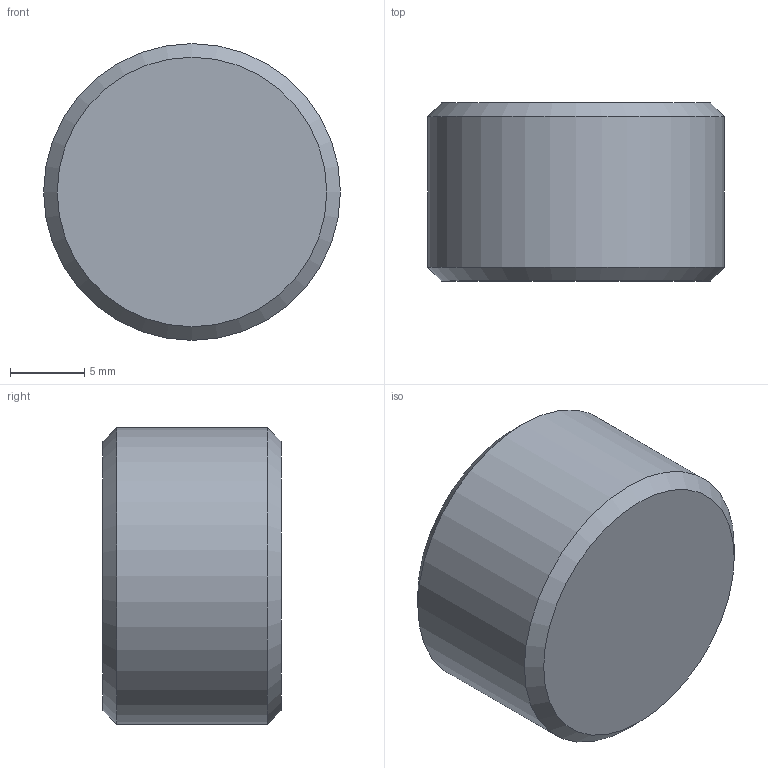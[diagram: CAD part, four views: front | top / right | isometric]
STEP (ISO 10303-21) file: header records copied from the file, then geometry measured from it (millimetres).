
FILE_DESCRIPTION( ( 'STEP AP203' ), '1' );
FILE_NAME( 'C:/Temp/Ganter_Step_05_03_2020/data/3_2/gn252_5/gn_252_5_prb/Stainless Steel-Blanking plug GN 252.5-M20x1,5-PRB.stp', '2020-03-13T05:26:43', ( 'License CC BY-ND 4.0' ), ( 'CADENAS' ), ' ', 'PARTsolutions', ' ' );
FILE_SCHEMA( ( 'CONFIG_CONTROL_DESIGN' ) );
Length unit declared in the file: millimetre
Products named in the file (1): _Stainless Steel-Blanking plug GN 252.5-M20x1,5-PRB
Bounding box: 20 x 12 x 20 mm (x, y, z)
Volume: 2892.9 mm3; surface area: 1634.5 mm2
Topology: 1 solids, 1 shells, 19 faces, 42 edges, 25 vertices
Faces by surface type: plane 14, cone 3, cylinder 2
Full cylindrical faces by diameter (mm): 10 x1, 20 x1
Entity records: 520 total; most frequent: DIRECTION 86, CARTESIAN_POINT 79, ORIENTED_EDGE 70, EDGE_CURVE 35, AXIS2_PLACEMENT_3D 31, EDGE_LOOP 24, VERTEX_POINT 24, LINE 24
